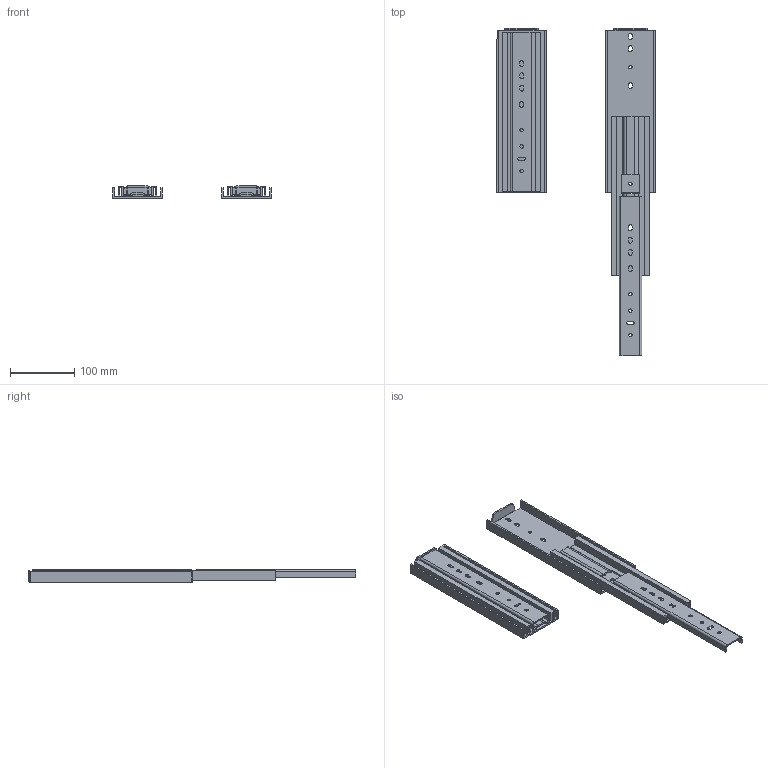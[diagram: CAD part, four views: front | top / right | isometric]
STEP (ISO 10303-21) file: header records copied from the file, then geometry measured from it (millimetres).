
FILE_DESCRIPTION((''),'2;1');
FILE_NAME('ASSEM1_ASM','2026-04-07T16:22:32',('T260078'),(''),'CREO PARAMETRIC BY PTC INC, 2025123','CREO PARAMETRIC BY PTC INC, 2025123','');
FILE_SCHEMA(('CONFIG_CONTROL_DESIGN','SHAPE_APPEARANCE_LAYERS_GROUPS'));
Length unit declared in the file: millimetre
Products named in the file (6): 76J01-10_X2_540B_X0_-I; 76J01-10_X2_540B_X0_-M; 76J01-10_X2_540B_X0_-O_1_2; 76J01-10_X2_540_X0__ASM; 76J01-10_X2_540B_X0_-_X2_5C55_2_ASM; ASSEM1_ASM
Assembly tree (8 placements, depth 3):
  ASSEM1_ASM
    76J01-10_X2_540_X0__ASM
      76J01-10_X2_540B_X0_-I
      76J01-10_X2_540B_X0_-M
      76J01-10_X2_540B_X0_-O_1_2
    76J01-10_X2_540B_X0_-_X2_5C55_2_ASM
      76J01-10_X2_540B_X0_-M
      76J01-10_X2_540B_X0_-I
      76J01-10_X2_540B_X0_-O_1_2
Bounding box: 245.44 x 508.01 x 19.3 mm (x, y, z)
Volume: 304800.5 mm3; surface area: 275506.5 mm2
Topology: 6 solids, 6 shells, 320 faces, 990 edges, 674 vertices
Faces by surface type: plane 176, cylinder 144
Entity records: 6843 total; most frequent: CARTESIAN_POINT 1038, DIRECTION 1007, ORIENTED_EDGE 990, EDGE_CURVE 495, AXIS2_PLACEMENT_3D 339, VERTEX_POINT 337, VECTOR 329, LINE 329
